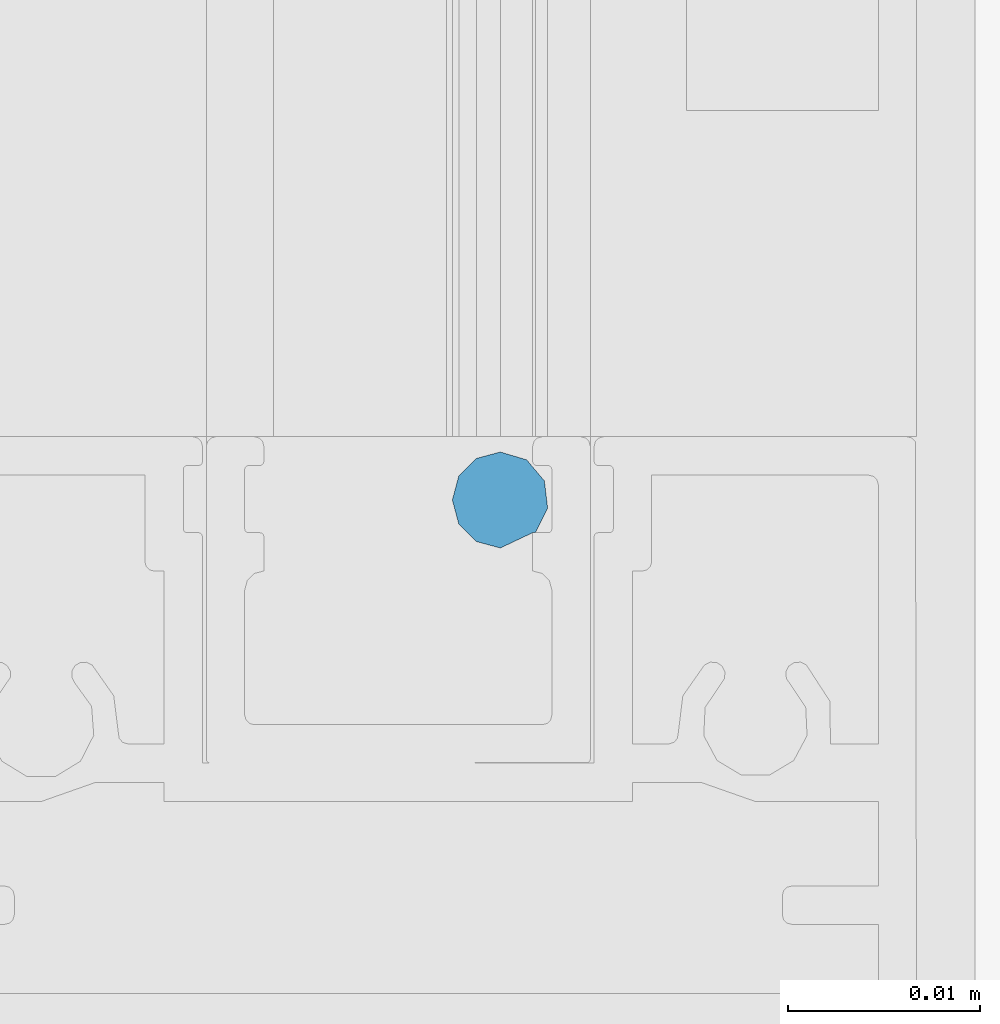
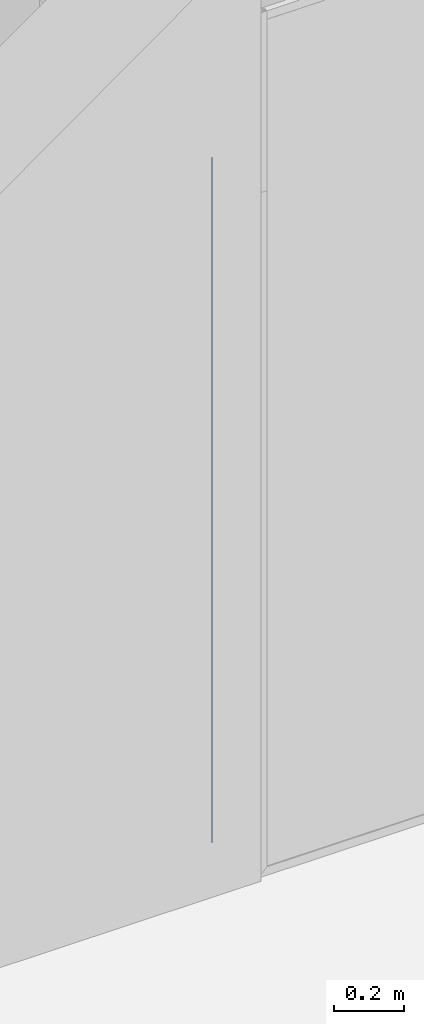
# One storey, part 36 of 387: 1 building element part, 2 elements without a shape of their own.
"""IFC2X3 building model written with IfcOpenShell, lengths in millimetres."""

from ifc_helpers import new_model, entity, si_unit, converted_unit, derived_unit, money_unit, direction, frame, origin_with_axes, place, context, subcontext, project, spatial, faceted_brep, source, transform, mapped, material, type_object, element, aggregate, save


model = new_model("IFC2X3")

# Units and contexts
model_context = context("Model", 3, precision=0.01, world=origin_with_axes(), true_north=direction((0.0, 1.0)))
body_context = subcontext(model_context, "Body", "Model", "MODEL_VIEW")
ifc_project = project(units=[si_unit("LENGTHUNIT", "METRE", prefix="MILLI"), si_unit("AREAUNIT", "SQUARE_METRE"), si_unit("VOLUMEUNIT", "CUBIC_METRE"), converted_unit("PLANEANGLEUNIT", "DEGREE", entity("IfcPlaneAngleMeasure", 0.0174532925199), si_unit("PLANEANGLEUNIT", "RADIAN"), dimensions=[0, 0, 0, 0, 0, 0, 0]), si_unit("SOLIDANGLEUNIT", "STERADIAN"), money_unit("EUR"), converted_unit("TIMEUNIT", "Year", entity("IfcTimeMeasure", 31556926.0), si_unit("TIMEUNIT", "SECOND"), dimensions=[0, 0, 1, 0, 0, 0, 0]), si_unit("MASSUNIT", "GRAM", prefix="KILO"), si_unit("THERMODYNAMICTEMPERATUREUNIT", "DEGREE_CELSIUS"), si_unit("LUMINOUSINTENSITYUNIT", "LUMEN"), si_unit("ENERGYUNIT", "JOULE", prefix="MEGA"), derived_unit("THERMALCONDUCTANCEUNIT", [(si_unit("POWERUNIT", "WATT"), 1), (si_unit("LENGTHUNIT", "METRE"), -1), (si_unit("THERMODYNAMICTEMPERATUREUNIT", "KELVIN"), -1)]), derived_unit("SPECIFICHEATCAPACITYUNIT", [(si_unit("ENERGYUNIT", "JOULE"), 1), (si_unit("MASSUNIT", "GRAM", prefix="KILO"), -1), (si_unit("THERMODYNAMICTEMPERATUREUNIT", "KELVIN"), -1)]), derived_unit("MASSDENSITYUNIT", [(si_unit("MASSUNIT", "GRAM", prefix="KILO"), 1), (si_unit("VOLUMEUNIT", "CUBIC_METRE"), -1)])], contexts=[model_context])

# Site, building, storey
site_placement = place(None, origin_with_axes())
site = spatial("IfcSite", under=ifc_project, at=site_placement, Name="Puškini 31, Narva", CompositionType="ELEMENT")
building_placement = place(site_placement, origin_with_axes())
building = spatial("IfcBuilding", under=site, at=building_placement, Name="Narva Riigigümnaasium", CompositionType="ELEMENT")
storey_placement = place(building_placement, frame((0.0, 0.0, 2640.0), z_axis=(0.0, 0.0, 1.0), x_axis=(1.0, 0.0, 0.0)))
storey = spatial("IfcBuildingStorey", under=building, at=storey_placement, Name="2.korrus +2.64", CompositionType="ELEMENT", Elevation=2640.0)

# Curtain wall, member, building element part
curtain_wall_type = type_object("IfcCurtainWallType", Name="Curtain Wall Type", PredefinedType="NOTDEFINED")
curtain_wall_placement = place(storey_placement, frame((28369.9999994, 164166.500006, -9.21871734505e-06), z_axis=(0.0, 0.0, 1.0), x_axis=(1.0, 0.0, 0.0)))
curtain_wall = element("IfcCurtainWall", 1, at=curtain_wall_placement, inside=storey, type_object=curtain_wall_type, Name="G-SKLF-11")
member_type = type_object("IfcMemberType", Name="32 x 27", PredefinedType="MULLION")
member_placement = place(curtain_wall_placement, frame((-8.29913915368e-09, -466.5, 0.0), z_axis=(0.0, 0.0, 1.0), x_axis=(0.0, -1.0, 0.0)))
member = element("IfcMember", 2, at=member_placement, type_object=member_type, Name="G-SKLF-11-raam", ObjectType="MULLION")
aggregate(curtain_wall, [member])
ifc_material = material(Name="Soojustus - Mineraal Kõva")
shared_shape = source(origin_with_axes(), body_context, "Body", "Brep", [
    faceted_brep([(-27.0, 6.99999999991, 0.0), (-27.0, 6.99999999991, 2400.00000922), (-26.2036516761, 5.31494614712, 2400.00000922), (-26.2036516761, 5.31494614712, 0.0), (-26.9999999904, 7.14458303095, 0.0), (-26.9999999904, 7.14458303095, 2400.00000922), (-28.2816360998, 7.77906932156, 2400.00000922), (-29.7013667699, 7.60722987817, 2400.00000922), (-30.7946188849, 6.68529507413, 2400.00000922), (-31.2036516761, 5.31494614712, 2400.00000922), (-30.8687151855, 4.06494614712, 2400.00000922), (-29.9536516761, 3.14988263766, 2400.00000922), (-28.7036516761, 2.81494614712, 2400.00000922), (-27.4536516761, 3.14988263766, 2400.00000922), (-26.5385881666, 4.06494614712, 2400.00000922), (-26.5385881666, 4.06494614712, 0.0), (-27.4536516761, 3.14988263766, 0.0), (-28.7036516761, 2.81494614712, 0.0), (-29.9536516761, 3.14988263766, 0.0), (-30.8687151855, 4.06494614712, 0.0), (-31.2036516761, 5.31494614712, 0.0), (-30.7946188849, 6.68529507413, 0.0), (-29.7013667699, 7.60722987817, 0.0), (-28.2816360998, 7.77906932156, 0.0)], [[[0, 1, 2, 3]], [[4, 5, 1, 0]], [[1, 5, 6, 7, 8, 9, 10, 11, 12, 13, 14, 2]], [[3, 2, 14, 15]], [[0, 3, 15, 16, 17, 18, 19, 20, 21, 22, 23, 4]], [[23, 6, 5, 4]], [[22, 7, 6, 23]], [[21, 8, 7, 22]], [[20, 9, 8, 21]], [[19, 10, 9, 20]], [[18, 11, 10, 19]], [[17, 12, 11, 18]], [[16, 13, 12, 17]], [[15, 14, 13, 16]]]),
])
building_element_part_placement = place(member_placement, origin_with_axes())
building_element_part = element("IfcBuildingElementPart", 3, at=building_element_part_placement, material=ifc_material, Name="Soojustus - Mineraal Kõva", context=body_context, shape_type="MappedRepresentation", body=[
    mapped(shared_shape, transform((0.0, 0.0, 0.0))),
])
aggregate(member, [building_element_part])

save(model, "model.ifc")
